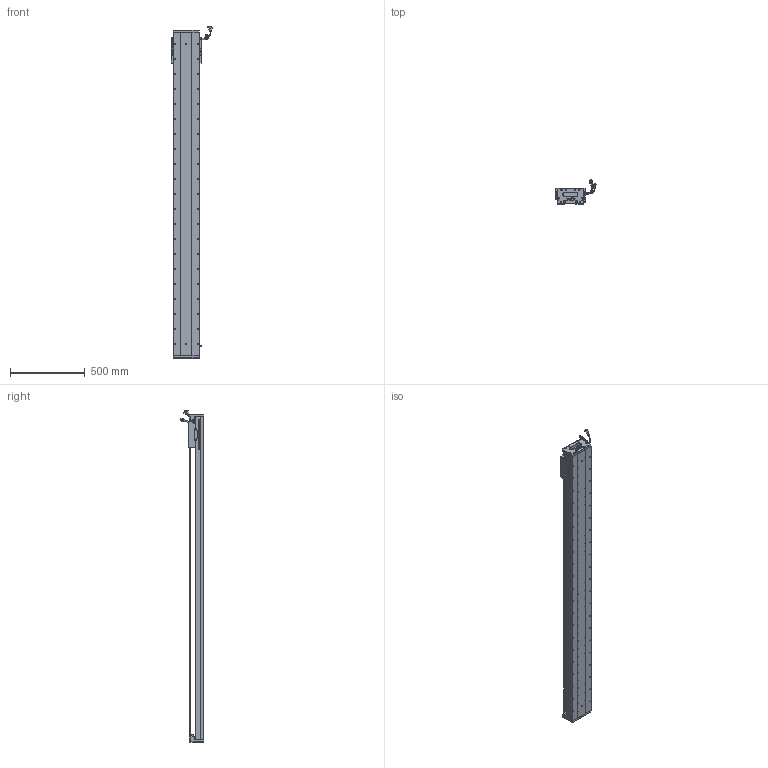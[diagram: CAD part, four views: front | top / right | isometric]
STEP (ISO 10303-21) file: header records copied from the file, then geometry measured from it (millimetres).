
FILE_DESCRIPTION (( 'STEP AP203' ), '1' );
FILE_NAME ('Z2-RY170D-1-L500-B-K.SLDASM_1900.step', '2021-05-17T09:09:20', ( '盈信电脑' ), ( '东莞市道滘镇水果街19号' ), 'SwSTEP 2.0', 'SolidWorks 2016', '' );
FILE_SCHEMA (( 'CONFIG_CONTROL_DESIGN' ));
Length unit declared in the file: millimetre
Products named in the file (36): Z2-RY170-L500詩湍145mm遵_1900; LABEL; Z-RY170詩湍狟揤裔; SCALE-Part-1; Z2-RY170D-1-L500-B-K.SLDASM_1900; RY170直线电机感应器672光电感应片; HOLDER0; SEAL; HARNESS-Part-2; Z-RY170詩湍奻揤裔; COVER-Part-1; SHIELDPLATE; 080黍杅芛假蚾釱21遴; SEAL-Part-1; 榋妏寠巭燃_暯_M2_2; SCREW-M1.6-3; 140雄赽晤鎢ん堤盄; 覜茼ん672; SCREW-M1.7; LABEL-Part-1; 140蚥薯蝶輸; SCREW-M1.6-1; SCREW-M1.6; SCREW-M1.6-2; Z2-RY170-L500耀郪菁釱_1900; COVER; HARNESS-Part-1; Z2-RY170臏賑輸(21遴); SCALE; PSLH080_PSLF2; Z-170詩湍傷裔啣; 170-Z-臏賑輸盄裔(21遴); HARNESS; PBU_SHEET; SCALE-Part-2; SCREW-M1.7-1
Assembly tree (41 placements, depth 4):
  Z2-RY170D-1-L500-B-K.SLDASM_1900
    Z2-RY170-L500耀郪菁釱_1900
    RY170直线电机感应器672光电感应片
    Z2-RY170臏賑輸(21遴)
    覜茼ん672  x3
    PSLH080_PSLF2
      SCALE
        SCALE-Part-1
        SCALE-Part-2
      HARNESS
        HARNESS-Part-1
        HARNESS-Part-2
      LABEL
        LABEL-Part-1
      COVER
        COVER-Part-1
      SEAL
        SEAL-Part-1
      榋妏寠巭燃_暯_M2_2
      SHIELDPLATE
      SCREW-M1.7
      SCREW-M1.7-1
      PBU_SHEET
      SCREW-M1.6
      SCREW-M1.6-1
      SCREW-M1.6-2
      SCREW-M1.6-3
      HOLDER0
    080黍杅芛假蚾釱21遴
    Z2-RY170-L500詩湍145mm遵_1900
    Z-170詩湍傷裔啣  x2
    Z-RY170詩湍奻揤裔  x2
    Z-RY170詩湍狟揤裔  x2
    140蚥薯蝶輸  x2
    170-Z-臏賑輸盄裔(21遴)
    140雄赽晤鎢ん堤盄
Bounding box: 275.34 x 158.11 x 2213.72 mm (x, y, z)
Volume: 11041050.9 mm3; surface area: 2728692.1 mm2
Topology: 36 solids, 36 shells, 3758 faces, 10333 edges, 6463 vertices
Faces by surface type: cylinder 1848, plane 1268, cone 520, torus 69, bspline 53
Entity records: 116393 total; most frequent: CARTESIAN_POINT 31908, ORIENTED_EDGE 17230, DIRECTION 16263, EDGE_CURVE 8615, AXIS2_PLACEMENT_3D 5984, VERTEX_POINT 5581, VECTOR 4295, LINE 4295
